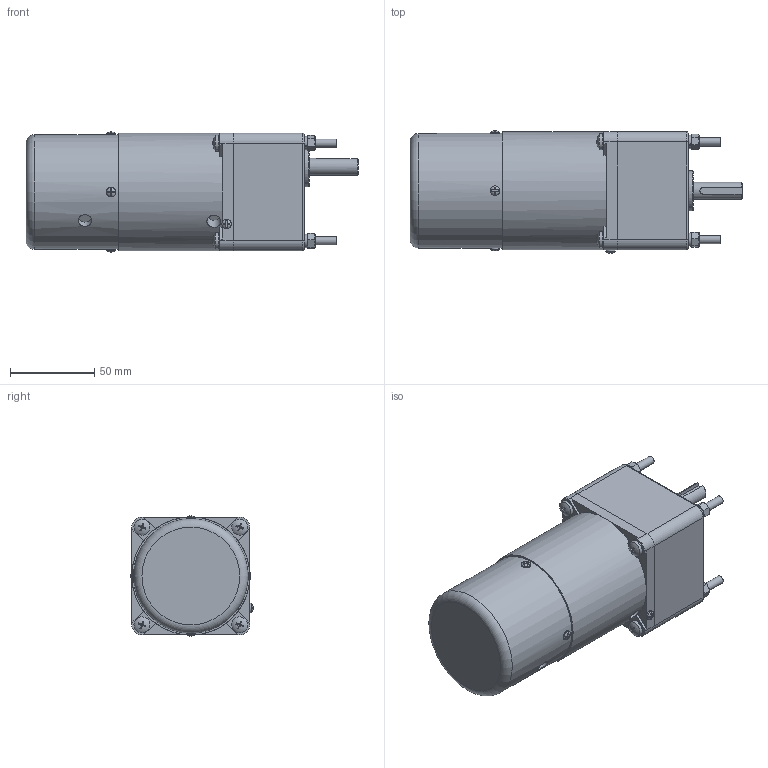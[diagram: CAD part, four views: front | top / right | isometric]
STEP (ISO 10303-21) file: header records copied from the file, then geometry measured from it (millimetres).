
FILE_DESCRIPTION(/* description */ (''),/* implementation_level */ '2;1');
FILE_NAME(/* name */ '70高箱T-15W刹车.stp',/* time_stamp */ '2022-10-31T09:30:34+08:00',/* author */ (''),/* organization */ (''),/* preprocessor_version */ 'ST-DEVELOPER v16.7',/* originating_system */ 'SIEMENS PLM Software NX 1899',/* authorisation */ '');
FILE_SCHEMA (('AP203_CONFIGURATION_CONTROLLED_3D_DESIGN_OF_MECHANICAL_PARTS_AND_ASSEMBLIES_MIM_LF { 1 0 10303 403 2 1 2}'));
Length unit declared in the file: millimetre
Products named in the file (1): yf186188FEB6lc8l
Bounding box: 197 x 72.68 x 71.28 mm (x, y, z)
Volume: 674327.1 mm3; surface area: 71360.8 mm2
Topology: 22 solids, 27 shells, 471 faces, 1124 edges, 728 vertices
Faces by surface type: plane 223, cylinder 85, bspline 80, cone 63, torus 11, sphere 9
Full cylindrical faces by diameter (mm): 2.7 x1, 4.351 x4, 4.826 x4, 5 x4, 5.3 x8, 5.6 x5, 6 x9, 8 x1, 8.3 x1, 9 x8, 9.5 x4, 10 x1, 24 x1, 63 x1, 66.6 x2, 68 x1, 70 x1
Entity records: 14963 total; most frequent: CARTESIAN_POINT 3962, ORIENTED_EDGE 2000, DIRECTION 1815, EDGE_CURVE 1000, AXIS2_PLACEMENT_3D 748, VERTEX_POINT 690, EDGE_LOOP 617, ADVANCED_FACE 471
